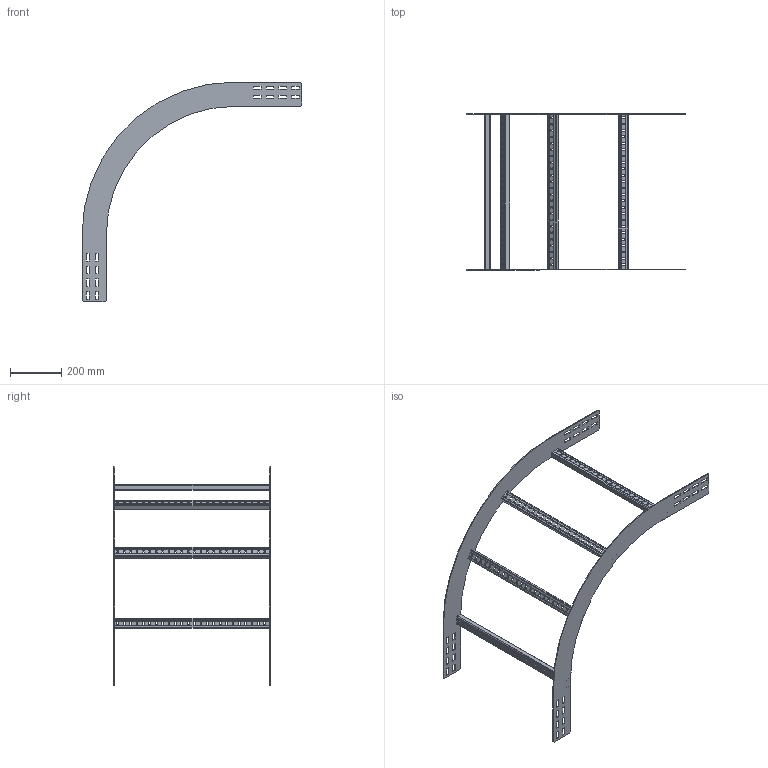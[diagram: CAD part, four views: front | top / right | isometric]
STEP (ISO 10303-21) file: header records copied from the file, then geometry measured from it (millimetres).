
FILE_DESCRIPTION(('Creo Elements/Direct Modeling STEP Export'),'2;1');
FILE_NAME('WPOR10-60-90-45.stp','2016-06-02T 9:30:26',(''),(''),'PTC Creo Elements/Direct Modeling STEP processor for AP214 (Solid Model)','PTC Creo Elements/Direct Modeling 19.0C 15-Aug-2015 (C) Parametric Technology GmbH','');
FILE_SCHEMA(('AUTOMOTIVE_DESIGN { 1 0 10303 214 1 1 1 1 }'));
Length unit declared in the file: millimetre
Products named in the file (3): WPIBG100_450.1; WPBS60.1.1.1.1; WPOR10-60-90-45
Assembly tree (6 placements, depth 2):
  WPOR10-60-90-45
    WPBS60.1.1.1.1  x4
    WPIBG100_450.1  x2
Bounding box: 860 x 611 x 860 mm (x, y, z)
Volume: 1112040.6 mm3; surface area: 1016854.7 mm2
Topology: 6 solids, 6 shells, 700 faces, 2064 edges, 1376 vertices
Faces by surface type: plane 432, cylinder 268
Entity records: 7372 total; most frequent: CARTESIAN_POINT 1270, ORIENTED_EDGE 1260, DIRECTION 1206, EDGE_CURVE 630, VECTOR 494, LINE 494, VERTEX_POINT 420, AXIS2_PLACEMENT_3D 356
